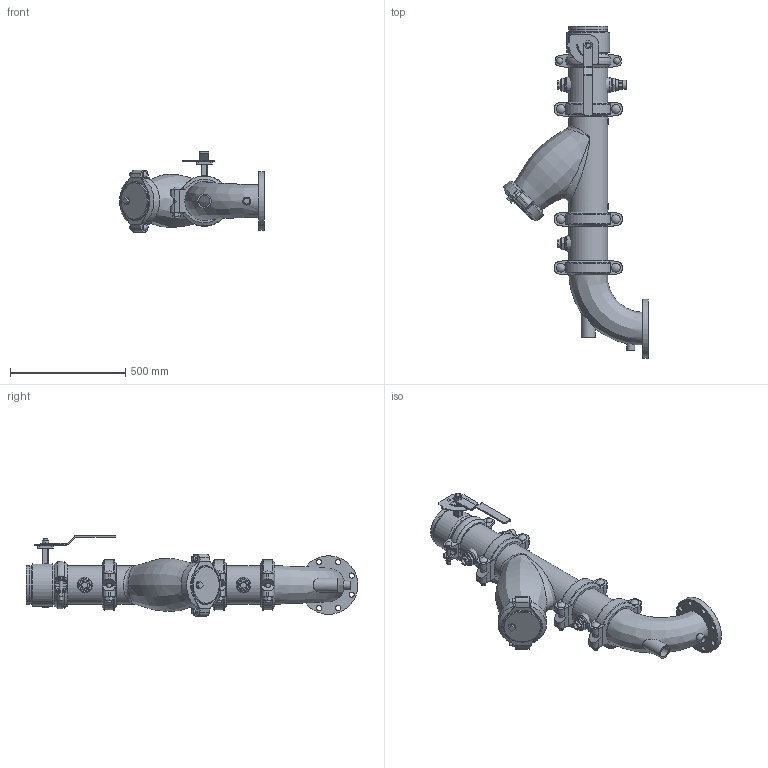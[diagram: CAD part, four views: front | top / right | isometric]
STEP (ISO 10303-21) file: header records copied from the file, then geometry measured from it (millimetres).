
FILE_DESCRIPTION(/* description */ ('VIC SVI PUMP DROP HORZ S/382 (OGSxFLG) (S/924-0.75)','CAx-IF Rec.Pracs.---Representation and Presentation of Product Manufacturing Information (PMI)---4.0---2014-10-13'),/* implementation_level */ '2;1');
FILE_NAME(/* name */ 'C:\Users\Vjadhav\AppData\Roaming\Autodesk\ApplicationPlugins\Victaulic.Temp\A115\Series 382 (OGSxFLG)_924 (0.75)_06.0x05.0 (150x125).stp',/* time_stamp */ '2022-03-17T12:19:25+06:00',/* author */ ('kkamble'),/* organization */ ('Victaulic'),/* preprocessor_version */ 'ST-DEVELOPER v17.2',/* originating_system */ 'Autodesk Inventor 2019',/* authorisation */ '');
FILE_SCHEMA (('AP242_MANAGED_MODEL_BASED_3D_ENGINEERING_MIM_LF { 1 0 10303 442 1 1 4 }'));
Length unit declared in the file: inch
Products named in the file (13): 382_924 (0.75)-06.0x05.0; PIPE-06.0; 107N-06.0; 732-06.0; 732-06.0_1; 07-06.0; 732-06.0_2; PIPE-06.2; 761-06.0; 924-04.0x0.75; 177N-06.0; 923-04.0x0.75; R100F-06.0x05.0
Assembly tree (15 placements, depth 3):
  382_924 (0.75)-06.0x05.0
    PIPE-06.0
    107N-06.0
    732-06.0
      732-06.0_1
      07-06.0
      732-06.0_2
    177N-06.0  x3
    PIPE-06.2
    761-06.0
    924-04.0x0.75
    923-04.0x0.75  x2
    R100F-06.0x05.0
Bounding box: 627.13 x 1438.28 x 347.22 mm (x, y, z)
Volume: 13701696.6 mm3; surface area: 2865350 mm2
Topology: 14 solids, 17 shells, 876 faces, 2256 edges, 1502 vertices
Faces by surface type: plane 488, cylinder 291, bspline 30, torus 30, cone 27, sphere 10
Full cylindrical faces by diameter (mm): 4.826 x10, 8.636 x4, 15.875 x8, 19.05 x8, 22.352 x8, 22.86 x1, 26.67 x4, 27.381 x4, 31.75 x1, 34.29 x1, 37.694 x6, 38.608 x1, 45.974 x6, 48.26 x1, 55.118 x1, 55.626 x3, 60.96 x1, 128.194 x1, 139.7 x1, 153.797 x1, 154.051 x5, 155.575 x5, 163.957 x11, 168.275 x26, 185.42 x1, 254 x1
Entity records: 25681 total; most frequent: CARTESIAN_POINT 8574, DIRECTION 3463, ORIENTED_EDGE 3240, EDGE_CURVE 1620, AXIS2_PLACEMENT_3D 1323, VERTEX_POINT 1084, LINE 817, VECTOR 817
